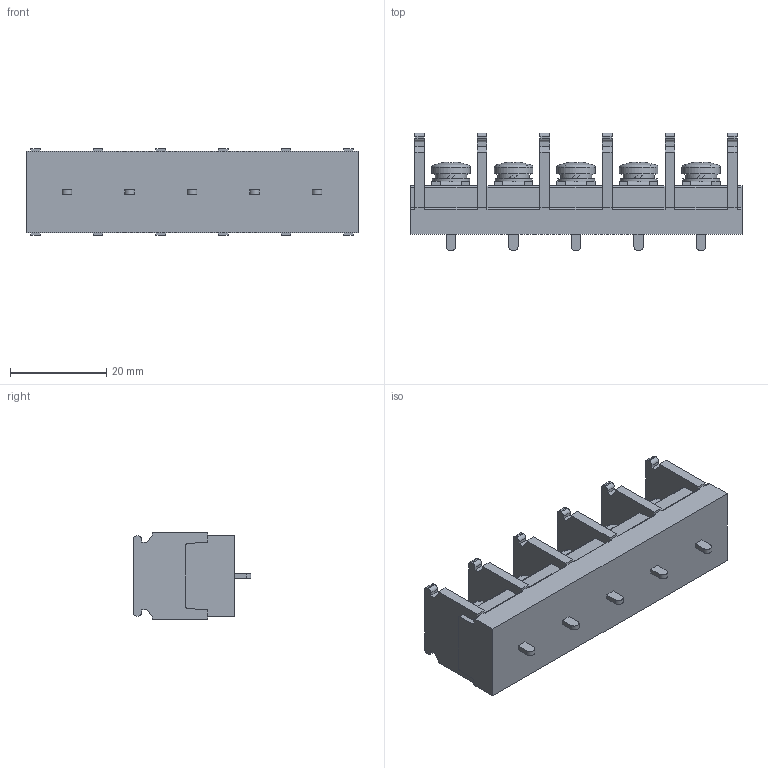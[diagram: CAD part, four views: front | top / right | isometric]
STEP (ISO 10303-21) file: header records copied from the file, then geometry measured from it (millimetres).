
FILE_DESCRIPTION(/* description */ ('Alibre Inc.'),/* implementation_level */ '2;1');
FILE_NAME(/* name */ 'export0',/* time_stamp */ '2016-08-02T19:09:43+09:00',/* author */ (''),/* organization */ (''),/* preprocessor_version */ 'ST-DEVELOPER v14',/* originating_system */ 'Alibre',/* authorisation */ '');
FILE_SCHEMA (('CONFIG_CONTROL_DESIGN'));
Length unit declared in the file: centimetre
Products named in the file (1): ID_1
Bounding box: 69 x 24.5 x 18 mm (x, y, z)
Volume: 14294.7 mm3; surface area: 7808.6 mm2
Topology: 1 solids, 22 shells, 827 faces, 2189 edges, 1446 vertices
Faces by surface type: plane 596, bspline 104, cylinder 92, cone 25, sphere 5, torus 5
Full cylindrical faces by diameter (mm): 4 x5, 6.5 x5, 7.7 x5, 8 x5
Entity records: 24524 total; most frequent: CARTESIAN_POINT 5429, ORIENTED_EDGE 4298, DIRECTION 3004, EDGE_CURVE 2149, VECTOR 1540, LINE 1540, VERTEX_POINT 1431, AXIS2_PLACEMENT_3D 1010
